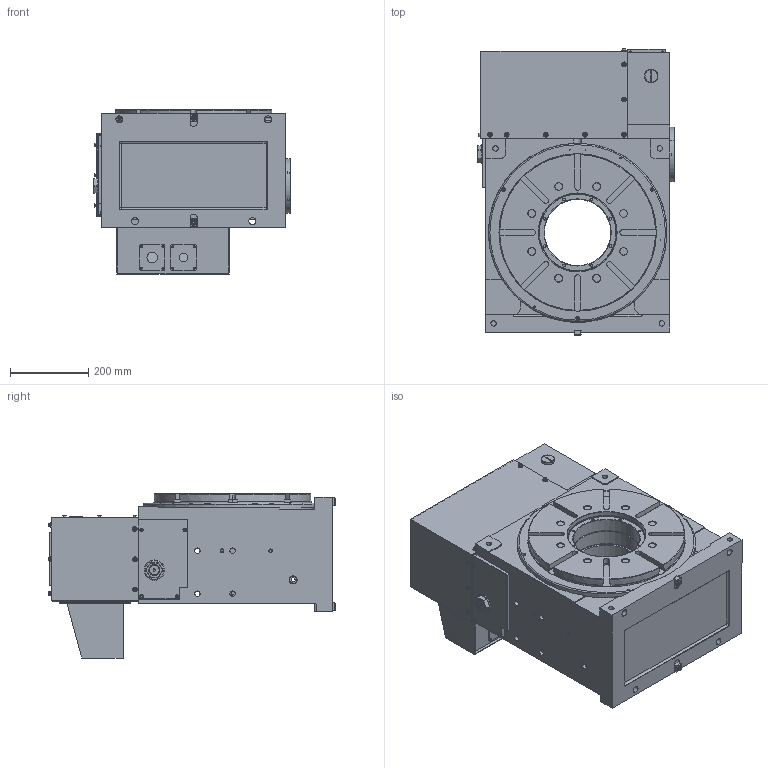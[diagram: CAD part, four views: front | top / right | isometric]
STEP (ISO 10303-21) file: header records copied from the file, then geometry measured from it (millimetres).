
FILE_DESCRIPTION (( 'STEP AP203' ), '1' );
FILE_NAME ('15161542-MDU400R-30.STEP', '2020-12-05T05:23:37', ( '' ), ( '' ), 'SwSTEP 2.0', 'SolidWorks 2019', '' );
FILE_SCHEMA (( 'CONFIG_CONTROL_DESIGN' ));
Length unit declared in the file: millimetre
Products named in the file (1): 15161542-MDU400R-30
Bounding box: 502.5 x 731.5 x 419.4 mm (x, y, z)
Surface area: 2097939.6 mm2 (no closed solid volume)
Topology: 0 solids, 163 shells, 1241 faces, 3954 edges, 2770 vertices
Faces by surface type: plane 525, cylinder 483, cone 127, torus 102, sphere 4
Entity records: 44435 total; most frequent: CARTESIAN_POINT 8737, DIRECTION 8081, ORIENTED_EDGE 6051, EDGE_CURVE 3904, AXIS2_PLACEMENT_3D 3020, VERTEX_POINT 2770, VECTOR 2041, LINE 2041
